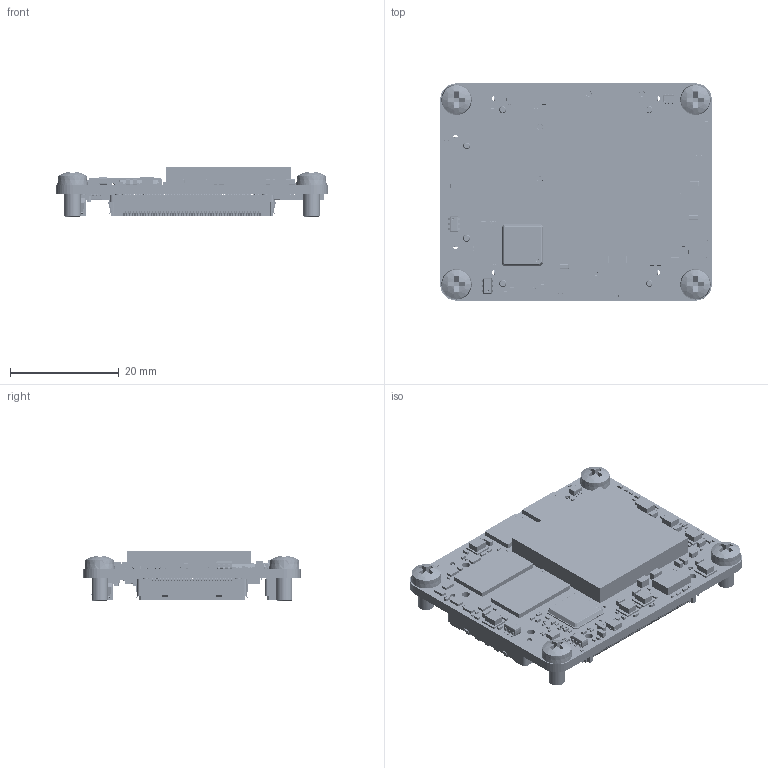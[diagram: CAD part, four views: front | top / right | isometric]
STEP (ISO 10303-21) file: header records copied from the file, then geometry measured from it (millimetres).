
FILE_DESCRIPTION(('Open CASCADE Model'),'2;1');
FILE_NAME('Open CASCADE Shape Model','2025-11-03T14:33:03',('Author'),( 'Open CASCADE'),'Open CASCADE STEP processor 7.5','Open CASCADE 7.5' ,'Unknown');
FILE_SCHEMA(('AUTOMOTIVE_DESIGN { 1 0 10303 214 1 1 1 1 }'));
Length unit declared in the file: millimetre
Products named in the file (432): PCB; BoardTE0821; Open CASCADE STEP translator 7.5 1.1.1; JM3TE0821; LSHM-130-02.5-F-DV-A-S-TR; _STRLSHM-30-02.5-DV-A-S; _C-185--30-02.5-DV1P; JM2TE0821; LSHM-150-02.5-F-DV-A-S-TR; _STRLSHM-50-02.5-DV-A-S; _C-185--50-02.5-DV1P; JM1TE0821; R122TE0821; RES_0603-0201; C189TE0821; 9683201712; C188TE0821; User Library-SMD CAPACITOR0402; C187TE0821; C186TE0821; C185TE0821; User Library-SMD 0201 CAPACITOR; C184TE0821; C183TE0821; C182TE0821; C181TE0821; C180TE0821; R121TE0821; R120TE0821; R119TE0821; R118TE0821; C178TE0821; R117TE0821; 9683206032; T2TE0821; 16731297760; R115TE0821; R114TE0821; U28TE0821; 18865005168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
Assembly tree (742 placements, depth 4):
  PCB
    BoardTE0821
      Open CASCADE STEP translator 7.5 1.1.1
    JM3TE0821
      LSHM-130-02.5-F-DV-A-S-TR
        _STRLSHM-30-02.5-DV-A-S
        _C-185--30-02.5-DV1P
    JM2TE0821
      LSHM-150-02.5-F-DV-A-S-TR
        _STRLSHM-50-02.5-DV-A-S
        _C-185--50-02.5-DV1P
    JM1TE0821
      LSHM-150-02.5-F-DV-A-S-TR
        _STRLSHM-50-02.5-DV-A-S
        _C-185--50-02.5-DV1P
    R122TE0821
      RES_0603-0201
    C189TE0821
      9683201712
    C188TE0821
      User Library-SMD CAPACITOR0402
    C187TE0821
      User Library-SMD CAPACITOR0402
    C186TE0821
      User Library-SMD CAPACITOR0402
    C185TE0821
      User Library-SMD 0201 CAPACITOR
    C184TE0821
      User Library-SMD 0201 CAPACITOR
    C183TE0821
      User Library-SMD 0201 CAPACITOR
    C182TE0821
      User Library-SMD 0201 CAPACITOR
    C181TE0821
      User Library-SMD 0201 CAPACITOR
    C180TE0821
      User Library-SMD 0201 CAPACITOR
    R121TE0821
      RES_0603-0201
    R120TE0821
      RES_0603-0201
    R119TE0821
      RES_0603-0201
    R118TE0821
      RES_0603-0201
    C178TE0821
      User Library-SMD 0201 CAPACITOR
    R117TE0821
      9683206032
    T2TE0821
      16731297760
    R115TE0821
      RES_0603-0201
    R114TE0821
      RES_0603-0201
    U28TE0821
      18865005168
        Cylinder
      13481229456
        Extruded
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Bounding box: 50 x 40 x 9.33 mm (x, y, z)
Volume: 7059.4 mm3; surface area: 15996 mm2
Topology: 1313 solids, 1317 shells, 26692 faces, 69695 edges, 42793 vertices
Faces by surface type: plane 17256, cylinder 6765, sphere 2554, bspline 52, cone 37, torus 28
Full cylindrical faces by diameter (mm): 0.2 x8, 0.4 x3, 0.6 x2, 0.8 x4, 1 x6, 1.32 x3, 3.2 x4
Entity records: 395641 total; most frequent: CARTESIAN_POINT 62739, ORIENTED_EDGE 54878, DIRECTION 52206, EDGE_CURVE 27439, LINE 22034, VECTOR 22034, VERTEX_POINT 18215, AXIS2_PLACEMENT_3D 15086
